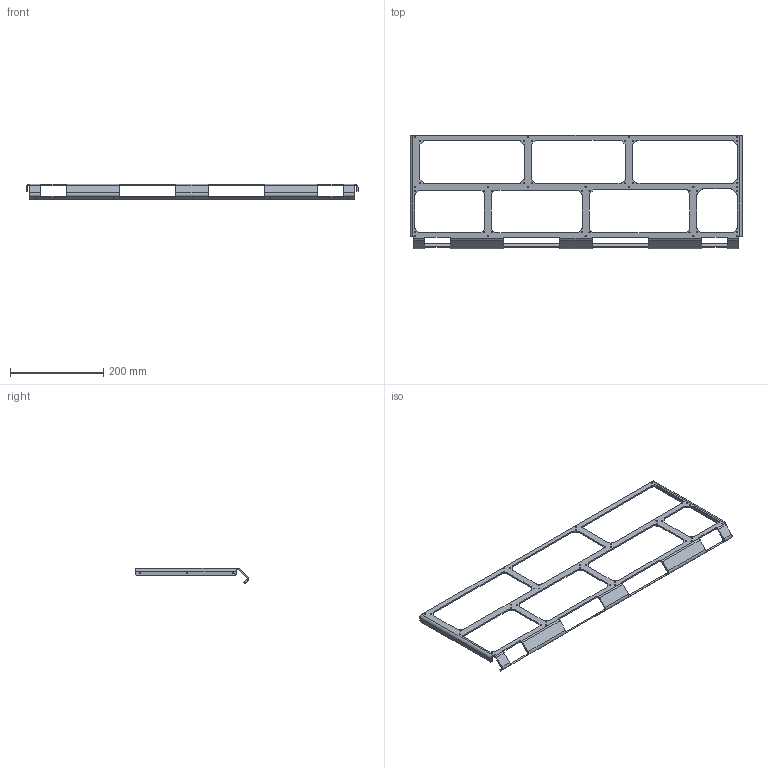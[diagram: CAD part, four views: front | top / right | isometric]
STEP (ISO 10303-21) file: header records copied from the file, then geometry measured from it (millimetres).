
FILE_DESCRIPTION(/* description */ (''),/* implementation_level */ '2;1');
FILE_NAME(/* name */ 'C:/Users/anton/Documents/Kerbal Space Program/Kerbal_Control_Panel/KCP2/CAD/ForManufacture/casing/Panel_MountingPlate_v96_Folded.step',/* time_stamp */ '2020-11-16T22:05:40-08:00',/* author */ (''),/* organization */ (''),/* preprocessor_version */ 'ST-DEVELOPER v18.1',/* originating_system */ 'Autodesk Translation Framework v9.3.0.1241',/* authorisation */ '');
FILE_SCHEMA (('AUTOMOTIVE_DESIGN { 1 0 10303 214 3 1 1 }'));
Length unit declared in the file: millimetre
Products named in the file (1): Mounting Plate
Bounding box: 711 x 242.37 x 33 mm (x, y, z)
Volume: 178050.7 mm3; surface area: 140092.8 mm2
Topology: 1 solids, 1 shells, 273 faces, 777 edges, 498 vertices
Faces by surface type: cylinder 160, plane 113
Full cylindrical faces by diameter (mm): 2.529 x55
Entity records: 9247 total; most frequent: DIRECTION 1641, CARTESIAN_POINT 1561, ORIENTED_EDGE 1554, EDGE_CURVE 777, AXIS2_PLACEMENT_3D 594, VERTEX_POINT 498, LINE 453, VECTOR 453
